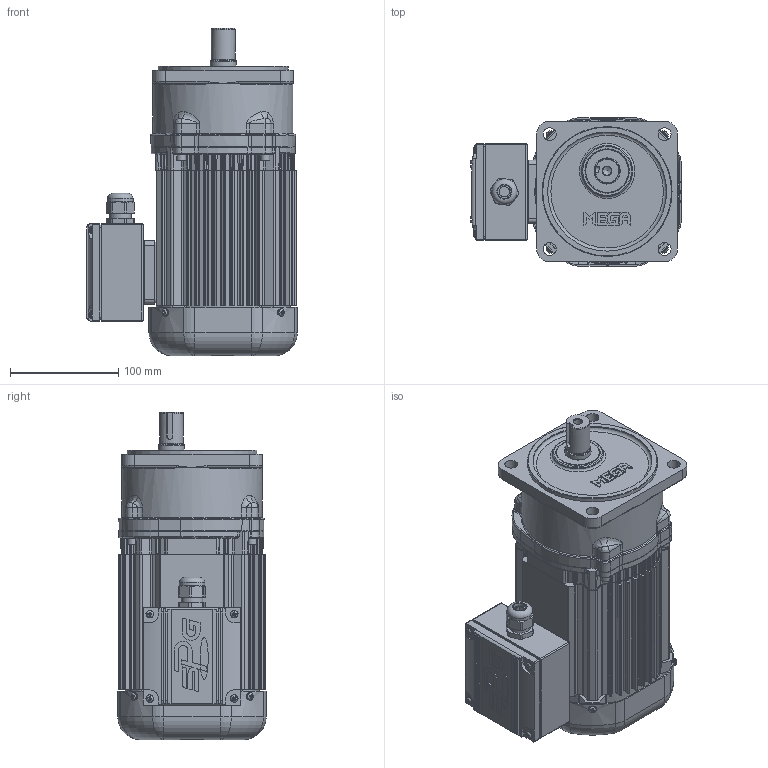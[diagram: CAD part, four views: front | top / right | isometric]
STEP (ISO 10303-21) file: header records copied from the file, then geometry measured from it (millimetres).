
FILE_DESCRIPTION(/* description */ (''),/* implementation_level */ '2;1');
FILE_NAME(/* name */ 'Z:\동력 3D 파일\PMK88-(5~30)-MA(B)040[ ]L_(3D).stp',/* time_stamp */ '2021-08-31T13:05:04+09:00',/* author */ ('jaebok'),/* organization */ (''),/* preprocessor_version */ 'ST-DEVELOPER v18.1',/* originating_system */ 'Autodesk Inventor 2022',/* authorisation */ '');
FILE_SCHEMA (('AUTOMOTIVE_DESIGN { 1 0 10303 214 3 1 1 }'));
Products named in the file (1): 부품5
Bounding box: 194.5 x 137 x 302.5 mm (x, y, z)
Volume: 1218723.7 mm3; surface area: 498106.3 mm2
Topology: 2 solids, 32 shells, 3624 faces, 9136 edges, 5473 vertices
Faces by surface type: plane 1080, bspline 987, cylinder 933, torus 360, cone 168, sphere 96
Full cylindrical faces by diameter (mm): 2 x1, 3.25 x1, 3.5 x4, 3.6 x4, 4 x21, 4.2 x4, 5 x25, 5.5 x4, 6 x5, 7 x12, 8 x6, 8.5 x4, 10 x1, 12 x4, 12.5 x1, 14 x1, 15 x1, 15.5 x1, 18 x1, 19 x1, 20 x2, 21 x1, 21.6 x1, 21.96 x1, 22 x1, 23 x1, 23.6 x1, 24 x3, 25 x2, 26 x1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
Entity records: 143485 total; most frequent: CARTESIAN_POINT 58700, ORIENTED_EDGE 17884, DIRECTION 15619, EDGE_CURVE 8942, AXIS2_PLACEMENT_3D 6337, VERTEX_POINT 5472, EDGE_LOOP 3820, FACE_OUTER_BOUND 3624
